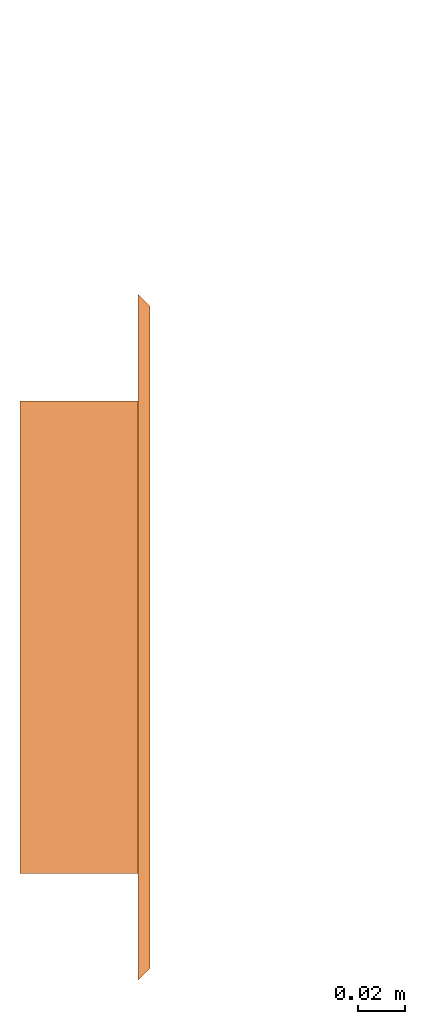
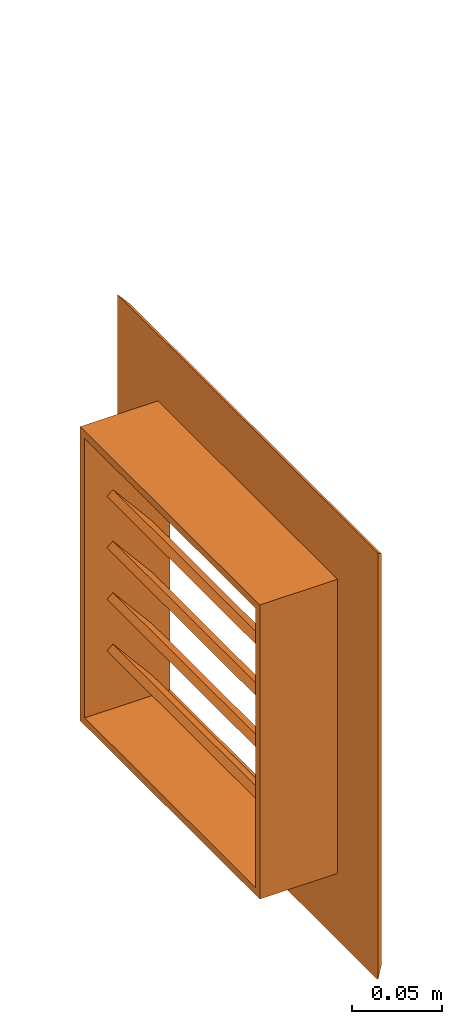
# One storey, part 5 of 5: 1 proxy.
"""IFC2X3 building model written with IfcOpenShell, lengths in centimetres."""

import ifcopenshell
import ifcopenshell.guid

model = None  # the IFC model being written
_history = None  # IfcOwnerHistory: only IFC2X3 demands one
_inside = {}  # id of a spatial element -> (the spatial element, [elements in it])
_under = {}  # id of a project, library or spatial element -> (it, [spatial elements below it])
_declared = {}  # id of a project -> (the project, [libraries it declares])
_typed = {}  # id of a type object -> (the type object, [elements of that type])
_made_of = {}  # id of a material, layer set ... -> (it, [elements and type objects made of it])


def new_model(schema):
    """Start an empty IFC model of exactly this schema.

    Asked for "IFC4X3", IfcOpenShell would pick the latest addendum, in which some entities
    have other attributes; the version numbers below select the first issue.
    IFC2X3 requires an IfcOwnerHistory on every rooted entity: one is made here for all.
    """
    global model, _history
    if schema == "IFC4X3":
        model = ifcopenshell.file(schema_version=(4, 3, 0, 0))
    else:
        model = ifcopenshell.file(schema=schema)
    _inside.clear()
    _under.clear()
    _declared.clear()
    _typed.clear()
    _made_of.clear()
    _history = None
    if model.schema == "IFC2X3":
        org = make("IfcOrganization", Name="unknown")
        user = make(
            "IfcPersonAndOrganization",
            ThePerson=make("IfcPerson", FamilyName="unknown"),
            TheOrganization=org,
        )
        app = make(
            "IfcApplication",
            ApplicationDeveloper=org,
            Version="unknown",
            ApplicationFullName="unknown",
            ApplicationIdentifier="unknown",
        )
        _history = make(
            "IfcOwnerHistory",
            OwningUser=user,
            OwningApplication=app,
            ChangeAction="ADDED",
            CreationDate=0,
        )
    return model


def make(cls, **values):
    """One entity of the class cls with the attributes given. An attribute that is None is left unset."""
    return model.create_entity(
        cls, **{name: value for name, value in values.items() if value is not None}
    )


def entity(cls, *values):
    """Any entity or typed value of the class cls, its attributes in the order of the schema. None: left unset."""
    e = model.create_entity(cls)
    for i, value in enumerate(values):
        if value is not None:
            e[i] = value
    return e


def rooted(cls, **values):
    """An entity with a GlobalId (a new one), such as an element, a storey or a relation."""
    return make(cls, GlobalId=ifcopenshell.guid.new(), OwnerHistory=_history, **values)


def si_unit(unit_type, name, prefix=None):
    """IfcSIUnit, for example si_unit("LENGTHUNIT", "METRE", prefix="MILLI")."""
    return make("IfcSIUnit", UnitType=unit_type, Prefix=prefix, Name=name)


def converted_unit(unit_type, name, factor, base, dimensions=None, offset=None):
    """IfcConversionBasedUnit, such as the inch: factor (a typed value) times the base unit."""
    return make(
        "IfcConversionBasedUnit"
        if offset is None
        else "IfcConversionBasedUnitWithOffset",
        ConversionOffset=offset,
        Dimensions=None
        if dimensions is None
        else entity("IfcDimensionalExponents", *dimensions),
        UnitType=unit_type,
        Name=name,
        ConversionFactor=make(
            "IfcMeasureWithUnit", ValueComponent=factor, UnitComponent=base
        ),
    )


def derived_unit(unit_type, elements):
    """IfcDerivedUnit: a product of units, each with its exponent."""
    return make(
        "IfcDerivedUnit",
        Elements=[
            make("IfcDerivedUnitElement", Unit=unit, Exponent=power)
            for unit, power in elements
        ],
        UnitType=unit_type,
    )


def assignment(units):
    """IfcUnitAssignment: the units of a project."""
    return None if units is None else make("IfcUnitAssignment", Units=units)


def point(xyz):
    """IfcCartesianPoint."""
    return None if xyz is None else make("IfcCartesianPoint", Coordinates=xyz)


def direction(xyz):
    """IfcDirection."""
    return None if xyz is None else make("IfcDirection", DirectionRatios=xyz)


def frame(location, z_axis=None, x_axis=None):
    """IfcAxis2Placement3D, a coordinate frame: its origin and axes. An axis left out is left unset."""
    return make(
        "IfcAxis2Placement3D",
        Location=point(location),
        Axis=direction(z_axis),
        RefDirection=direction(x_axis),
    )


def origin():
    """The frame at (0, 0, 0) with its axes left unset."""
    return frame((0.0, 0.0, 0.0))


def place(relative_to, where):
    """IfcLocalPlacement: puts the frame where relative to a parent placement (None: the world)."""
    return make(
        "IfcLocalPlacement", PlacementRelTo=relative_to, RelativePlacement=where
    )


def context(
    kind, dimensions, precision=None, world=None, true_north=None, identifier=None
):
    """IfcGeometricRepresentationContext, for example the 3D "Model" context."""
    return make(
        "IfcGeometricRepresentationContext",
        ContextIdentifier=identifier,
        ContextType=kind,
        CoordinateSpaceDimension=dimensions,
        Precision=precision,
        WorldCoordinateSystem=world,
        TrueNorth=true_north,
    )


def subcontext(parent, identifier, kind, view, scale=None):
    """IfcGeometricRepresentationSubContext, for example "Body" below "Model"."""
    return make(
        "IfcGeometricRepresentationSubContext",
        ContextIdentifier=identifier,
        ContextType=kind,
        ParentContext=parent,
        TargetScale=scale,
        TargetView=view,
    )


def project(units=None, contexts=None):
    """IfcProject with its units and contexts."""
    return rooted(
        "IfcProject",
        Name="project",
        RepresentationContexts=contexts,
        UnitsInContext=assignment(units),
    )


def spatial(cls, under=None, at=None, **own):
    """A site, building, storey or space (cls), placed at a placement, below another one or the project."""
    s = rooted(cls, ObjectPlacement=at, **own)
    if under is not None:
        _under.setdefault(under.id(), (under, []))[1].append(s)
    return s


def faces_of(points, faces, orient=None, outer=None):
    """IfcFace entities. A face is a list of loops; a loop is a list of indices into points, from 0.

    orient and outer hold one flag for each loop. By default every Orientation is true, the
    first loop of a face is its IfcFaceOuterBound and the others are IfcFaceBound.
    """
    made = []
    for i, loops in enumerate(faces):
        bounds = []
        for j, loop in enumerate(loops):
            is_outer = j == 0 if outer is None else outer[i][j]
            bounds.append(
                make(
                    "IfcFaceOuterBound" if is_outer else "IfcFaceBound",
                    Bound=make("IfcPolyLoop", Polygon=[points[k] for k in loop]),
                    Orientation=True if orient is None else orient[i][j],
                )
            )
        made.append(make("IfcFace", Bounds=bounds))
    return made


def faceted_brep(points, faces, orient=None, outer=None, voids=None):
    """IfcFacetedBrep: a solid bounded by flat faces; with voids (closed shells), ...WithVoids."""
    shared = [point(p) for p in points]
    hull = make("IfcClosedShell", CfsFaces=faces_of(shared, faces, orient, outer))
    if voids is None:
        return make("IfcFacetedBrep", Outer=hull)
    return make(
        "IfcFacetedBrepWithVoids",
        Outer=hull,
        Voids=[
            make(cls, CfsFaces=faces_of(shared, fs, o, b)) for cls, fs, o, b in voids
        ],
    )


def shape(context_of_items, identifier, shape_type, items):
    """IfcShapeRepresentation: the items that make up one representation, for example the "Body"."""
    return make(
        "IfcShapeRepresentation",
        ContextOfItems=context_of_items,
        RepresentationIdentifier=identifier,
        RepresentationType=shape_type,
        Items=items,
    )


def source(mapping_origin, context_of_items, identifier, shape_type, items):
    """IfcRepresentationMap: a shape defined once, which mapped items show again and again."""
    return make(
        "IfcRepresentationMap",
        MappingOrigin=mapping_origin,
        MappedRepresentation=shape(context_of_items, identifier, shape_type, items),
    )


def transform(
    local_origin,
    x_axis=None,
    y_axis=None,
    z_axis=None,
    scale=None,
    scale2=None,
    scale3=None,
    uniform=True,
):
    """IfcCartesianTransformationOperator3D, or its non-uniform kind. x_axis, y_axis, z_axis: its Axis1, 2, 3."""
    if uniform:
        return make(
            "IfcCartesianTransformationOperator3D",
            Axis1=direction(x_axis),
            Axis2=direction(y_axis),
            LocalOrigin=point(local_origin),
            Scale=scale,
            Axis3=direction(z_axis),
        )
    return make(
        "IfcCartesianTransformationOperator3DnonUniform",
        Axis1=direction(x_axis),
        Axis2=direction(y_axis),
        LocalOrigin=point(local_origin),
        Scale=scale,
        Axis3=direction(z_axis),
        Scale2=scale2,
        Scale3=scale3,
    )


def mapped(mapping_source, mapping_target):
    """IfcMappedItem: shows the shape of a source again, moved by a transform."""
    return make(
        "IfcMappedItem", MappingSource=mapping_source, MappingTarget=mapping_target
    )


def material(Name=None, Category=None):
    """IfcMaterial."""
    return make("IfcMaterial", Name=Name, Category=Category)


def made_of(thing, what):
    """Note that an element or type object is made of a material, layer set ...; save() writes the relation."""
    if what is not None:
        _made_of.setdefault(what.id(), (what, []))[1].append(thing)
    return thing


def type_object(cls, material=None, **own):
    """A type object (cls), such as IfcWallType, which elements share."""
    return made_of(rooted(cls, **own), material)


def type_shapes(of_type, sources):
    """Give a type object the sources (RepresentationMaps) that its elements show as mapped items."""
    of_type.RepresentationMaps = sources


def element(
    cls,
    number,
    at=None,
    inside=None,
    cuts=None,
    type_object=None,
    material=None,
    context=None,
    identifier="Body",
    shape_type=None,
    held_by="IfcProductDefinitionShape",
    body=None,
    shapes=None,
    **own,
):
    """One element of the class cls, such as IfcWall. Its Tag is "e" and its number.

    at: its placement. inside: the storey or other place that contains it. cuts: it is an
    opening in that element (IfcRelVoidsElement). A single representation is given by context,
    identifier, shape_type and body (its items); several are given by shapes. held_by: the class
    of the entity that holds the representations. save() writes the other relations.
    """
    e = rooted(cls, Tag="e%d" % number, ObjectPlacement=at, **own)
    if body is not None:
        shapes = [shape(context, identifier, shape_type, body)]
    if shapes is not None:
        e.Representation = make(held_by, Representations=shapes)
    if inside is not None:
        _inside.setdefault(inside.id(), (inside, []))[1].append(e)
    if cuts is not None:
        rooted(
            "IfcRelVoidsElement", RelatingBuildingElement=cuts, RelatedOpeningElement=e
        )
    if type_object is not None:
        _typed.setdefault(type_object.id(), (type_object, []))[1].append(e)
    return made_of(e, material)


def aggregate(whole, parts):
    """IfcRelAggregates: a whole, such as a stair, and the parts it consists of."""
    return rooted("IfcRelAggregates", RelatingObject=whole, RelatedObjects=parts)


def save(model, path):
    """Write the relations noted so far, then the file.

    IfcRelAggregates (storeys below a building ...), IfcRelContainedInSpatialStructure (elements
    in a storey), IfcRelDefinesByType, IfcRelAssociatesMaterial and IfcRelDeclares: one each for
    every whole, place, type object, material and project.
    """
    for whole, parts in _under.values():
        aggregate(whole, parts)
    for where, things in _inside.values():
        rooted(
            "IfcRelContainedInSpatialStructure",
            RelatedElements=things,
            RelatingStructure=where,
        )
    for kind, things in _typed.values():
        rooted("IfcRelDefinesByType", RelatedObjects=things, RelatingType=kind)
    for what, things in _made_of.values():
        rooted("IfcRelAssociatesMaterial", RelatedObjects=things, RelatingMaterial=what)
    for by, libraries in _declared.values():
        rooted("IfcRelDeclares", RelatingContext=by, RelatedDefinitions=libraries)
    model.write(path)


model = new_model("IFC2X3")

# Units and contexts
model_context = context("Model", 3, precision=0.001, world=origin(), true_north=direction((6.12303176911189e-17, 1.0)))
body_context = subcontext(model_context, "Body", "Model", "MODEL_VIEW")
ifc_project = project(units=[si_unit("LENGTHUNIT", "METRE", prefix="CENTI"), si_unit("AREAUNIT", "SQUARE_METRE"), si_unit("VOLUMEUNIT", "CUBIC_METRE"), converted_unit("PLANEANGLEUNIT", "DEGREE", entity("IfcRatioMeasure", 0.0174532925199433), si_unit("PLANEANGLEUNIT", "RADIAN"), dimensions=[0, 0, 0, 0, 0, 0, 0]), si_unit("MASSUNIT", "GRAM", prefix="KILO"), si_unit("TIMEUNIT", "SECOND"), si_unit("FREQUENCYUNIT", "HERTZ"), si_unit("THERMODYNAMICTEMPERATUREUNIT", "DEGREE_CELSIUS"), derived_unit("THERMALTRANSMITTANCEUNIT", [(si_unit("MASSUNIT", "GRAM", prefix="KILO"), 1), (si_unit("THERMODYNAMICTEMPERATUREUNIT", "KELVIN"), -1), (si_unit("TIMEUNIT", "SECOND"), -3)]), derived_unit("VOLUMETRICFLOWRATEUNIT", [(si_unit("LENGTHUNIT", "METRE"), 3), (si_unit("TIMEUNIT", "SECOND"), -1)]), si_unit("ELECTRICCURRENTUNIT", "AMPERE"), si_unit("ELECTRICVOLTAGEUNIT", "VOLT"), si_unit("POWERUNIT", "WATT"), si_unit("FORCEUNIT", "NEWTON", prefix="KILO"), si_unit("ILLUMINANCEUNIT", "LUX"), si_unit("LUMINOUSFLUXUNIT", "LUMEN"), si_unit("LUMINOUSINTENSITYUNIT", "CANDELA"), derived_unit("USERDEFINED", [(si_unit("MASSUNIT", "GRAM", prefix="KILO"), -1), (si_unit("LENGTHUNIT", "METRE"), -2), (si_unit("TIMEUNIT", "SECOND"), 3), (si_unit("LUMINOUSFLUXUNIT", "LUMEN"), 1)]), derived_unit("LINEARVELOCITYUNIT", [(si_unit("LENGTHUNIT", "METRE"), 1), (si_unit("TIMEUNIT", "SECOND"), -1)]), si_unit("PRESSUREUNIT", "PASCAL"), derived_unit("USERDEFINED", [(si_unit("LENGTHUNIT", "METRE"), -2), (si_unit("MASSUNIT", "GRAM", prefix="KILO"), 1), (si_unit("TIMEUNIT", "SECOND"), -2)])], contexts=[model_context])

# Site, building, storey
site_placement = place(None, frame((8.62739174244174, -249.285249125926, 0.0)))
site = spatial("IfcSite", under=ifc_project, at=site_placement, Name="Default", CompositionType="ELEMENT")
building_placement = place(site_placement, origin())
building = spatial("IfcBuilding", under=site, at=building_placement, CompositionType="ELEMENT")
storey_placement = place(building_placement, frame((0.0, 0.0, 410.0)))
storey = spatial("IfcBuildingStorey", under=building, at=storey_placement, Name="Acrotère E1", CompositionType="ELEMENT", Elevation=410.000000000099)

# Proxy
ifc_material = material(Name="Acier - Galvanisé")
building_element_proxy_type = type_object("IfcBuildingElementProxyType", Name="200 x 200 mm", PredefinedType="NOTDEFINED", material=ifc_material)
shared_shape = source(origin(), body_context, "Body", "Brep", [
    faceted_brep([(24.0117756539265, 1.42884956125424, 12.5759534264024), (24.0117756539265, 4.0, 9.51177565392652), (24.0117756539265, 4.38302222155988, 9.8331694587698), (24.0117756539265, 1.81187178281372, 12.8973472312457), (5.01177565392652, 1.42884956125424, 12.5759534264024), (5.01177565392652, 1.81187178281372, 12.8973472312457), (5.01177565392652, 4.38302222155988, 9.8331694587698), (5.01177565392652, 4.0, 9.51177565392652)], [[[0, 1, 2, 3]], [[4, 5, 6, 7]], [[1, 0, 4, 7]], [[2, 1, 7, 6]], [[3, 2, 6, 5]], [[0, 3, 5, 4]]]),
    faceted_brep([(24.0117756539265, 1.42884956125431, 16.0759534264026), (24.0117756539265, 4.0, 13.0117756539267), (24.0117756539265, 4.38302222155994, 13.3331694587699), (24.0117756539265, 1.81187178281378, 16.3973472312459), (5.01177565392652, 1.42884956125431, 16.0759534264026), (5.01177565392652, 1.81187178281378, 16.3973472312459), (5.01177565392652, 4.38302222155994, 13.3331694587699), (5.01177565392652, 4.0, 13.0117756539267)], [[[0, 1, 2, 3]], [[4, 5, 6, 7]], [[1, 0, 4, 7]], [[2, 1, 7, 6]], [[3, 2, 6, 5]], [[0, 3, 5, 4]]]),
    faceted_brep([(24.0117756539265, 1.42884956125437, 19.5759534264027), (24.0117756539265, 4.0, 16.5117756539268), (24.0117756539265, 4.38302222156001, 16.8331694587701), (24.0117756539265, 1.81187178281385, 19.897347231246), (5.01177565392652, 1.42884956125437, 19.5759534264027), (5.01177565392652, 1.81187178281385, 19.897347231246), (5.01177565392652, 4.38302222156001, 16.8331694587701), (5.01177565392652, 4.0, 16.5117756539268)], [[[0, 1, 2, 3]], [[4, 5, 6, 7]], [[1, 0, 4, 7]], [[2, 1, 7, 6]], [[3, 2, 6, 5]], [[0, 3, 5, 4]]]),
    faceted_brep([(24.0117756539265, 1.42884956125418, 9.0759534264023), (24.0117756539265, 4.0, 6.01177565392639), (24.0117756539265, 4.38302222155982, 6.33316945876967), (24.0117756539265, 1.81187178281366, 9.39734723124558), (5.01177565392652, 1.42884956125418, 9.0759534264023), (5.01177565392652, 1.81187178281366, 9.39734723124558), (5.01177565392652, 4.38302222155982, 6.33316945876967), (5.01177565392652, 4.0, 6.01177565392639)], [[[0, 1, 2, 3]], [[4, 5, 6, 7]], [[1, 0, 4, 7]], [[2, 1, 7, 6]], [[3, 2, 6, 5]], [[0, 3, 5, 4]]]),
    faceted_brep([(24.0117756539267, 1.42884956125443, 23.0759534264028), (24.0117756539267, 4.0, 20.0117756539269), (24.0117756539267, 4.38302222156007, 20.3331694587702), (24.0117756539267, 1.81187178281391, 23.3973472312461), (5.01177565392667, 1.42884956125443, 23.0759534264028), (5.01177565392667, 1.81187178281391, 23.3973472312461), (5.01177565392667, 4.38302222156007, 20.3331694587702), (5.01177565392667, 4.0, 20.0117756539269)], [[[0, 1, 2, 3]], [[4, 5, 6, 7]], [[1, 0, 4, 7]], [[2, 1, 7, 6]], [[3, 2, 6, 5]], [[0, 3, 5, 4]]]),
    faceted_brep([(4.51177565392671, 0.0, 24.5117756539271), (4.51177565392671, 5.0, 24.5117756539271), (4.51177565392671, 5.0, 4.51177565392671), (4.51177565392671, 0.0, 4.51177565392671), (5.0117756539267, 5.5, 24.0117756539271), (5.0117756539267, 0.0, 24.0117756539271), (5.0117756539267, 0.0, 5.0117756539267), (5.0117756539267, 5.5, 5.0117756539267), (0.0, 5.0, 29.0235513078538), (0.499999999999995, 5.5, 28.5235513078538), (0.499999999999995, 5.5, 0.499999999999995), (0.0, 5.0, 0.0), (24.5117756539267, 5.0, 4.51177565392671), (24.5117756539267, 0.0, 4.51177565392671), (24.0117756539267, 0.0, 5.0117756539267), (24.0117756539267, 5.5, 5.0117756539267), (28.5235513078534, 5.5, 0.499999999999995), (29.0235513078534, 5.0, 0.0), (24.5117756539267, 5.0, 24.5117756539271), (24.5117756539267, 0.0, 24.5117756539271), (24.0117756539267, 0.0, 24.0117756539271), (24.0117756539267, 5.5, 24.0117756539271), (28.5235513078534, 5.5, 28.5235513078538), (29.0235513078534, 5.0, 29.0235513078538)], [[[0, 1, 2, 3]], [[4, 5, 6, 7]], [[8, 9, 10, 11]], [[3, 2, 12, 13]], [[7, 6, 14, 15]], [[11, 10, 16, 17]], [[13, 12, 18, 19]], [[15, 14, 20, 21]], [[17, 16, 22, 23]], [[19, 18, 1, 0]], [[3, 13, 19, 0], [5, 20, 14, 6]], [[21, 20, 5, 4]], [[7, 15, 21, 4], [9, 22, 16, 10]], [[23, 22, 9, 8]], [[11, 17, 23, 8], [1, 18, 12, 2]]], outer=[[True], [True], [True], [True], [True], [True], [True], [True], [True], [True], [True, False], [True], [False, True], [True], [True, False]]),
])
type_shapes(building_element_proxy_type, [shared_shape])
proxy_placement = place(storey_placement, frame((1540.90482780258, 1691.74198372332, 5.16345096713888), z_axis=(0.0, 0.0, 1.0), x_axis=(0.0, -1.0, 0.0)))
element("IfcBuildingElementProxy", 1, at=proxy_placement, inside=storey, type_object=building_element_proxy_type, material=ifc_material, Name="Grille d'aération 20x20- Mur:200 x 200 mm", ObjectType="200 x 200 mm", context=body_context, shape_type="MappedRepresentation", body=[
    mapped(shared_shape, transform((0.0, 0.0, 0.0), scale=1.0)),
])

save(model, "model.ifc")
